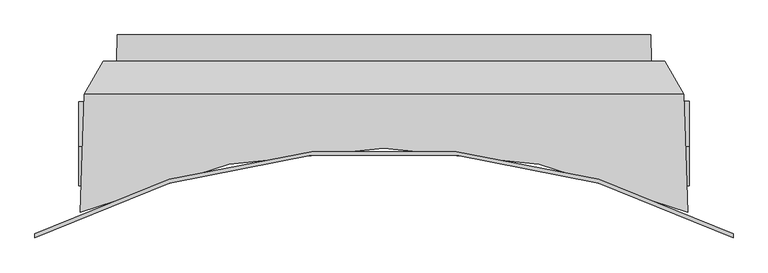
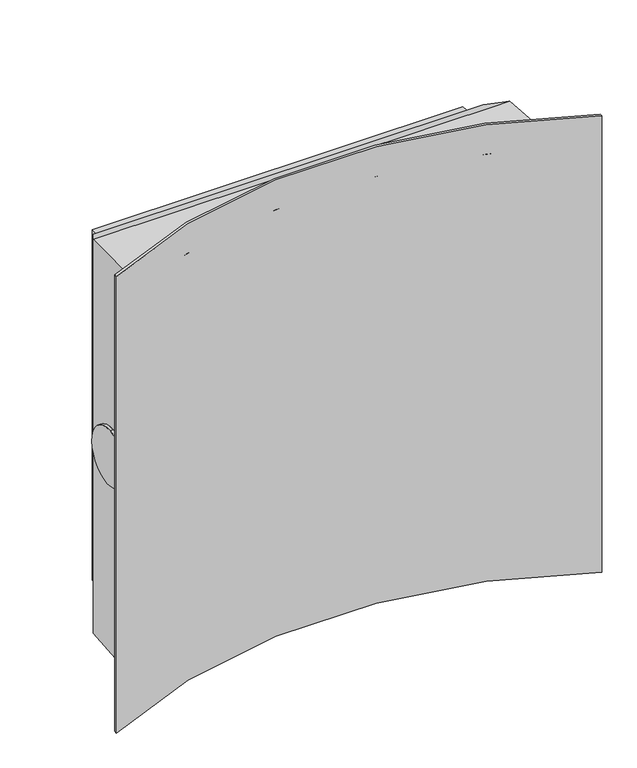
"""IFC4 building model written with IfcOpenShell, lengths in millimetres: proxy geometry, SU.900x900ManwayRiserAdapter.2500."""

from ifc_helpers import new_model, si_unit, frame, origin, place, context, project, spatial, polyline, circle_curve, ellipse_curve, source, transform, mapped, element, save
from ifc_brep_helpers import plane_surface, cylinder_surface, revolved_surface, advanced_brep


def generic_models_2cc97f2b(model_context):
    return source(origin(), model_context, "Body", "AdvancedBrep", [
        advanced_brep(
        [(498.8644366, -174.4226099, -69.7774514), (506.0, -174.4226099, -69.7774514), (506.0, -185.5773901, 69.7774514), (499.2539702, -185.5773901, 69.7774514), (-506.0, -174.4226099, -69.7774514), (-498.8644366, -174.4226099, -69.7774514), (-499.2539702, -185.5773901, 69.7774514), (-506.0, -185.5773901, 69.7774514), (-496.206021, -98.2955463, -496.206021), (-503.0171232, -293.3399951, -503.0171232), (-503.0171232, -293.3399951, 503.0171232), (-496.206021, -98.2955463, 496.206021), (-496.6147495, -110.0, 0.0), (503.0171232, -293.3399951, -503.0171232), (496.206021, -98.2955463, -496.206021), (496.206021, -98.2955463, 496.206021), (503.0171232, -293.3399951, 503.0171232), (496.6147495, -110.0, 0.0), (578.2496957, -329.4533574, -575.0), (-578.2496957, -329.4533574, -575.0), (-578.2496957, -329.4533574, 575.0), (578.2496957, -329.4533574, 575.0), (-464.8584727, -44.0, -464.8584727), (464.8584727, -44.0, -464.8584727), (464.8584727, -44.0, 464.8584727), (-464.8584727, -44.0, 464.8584727), (443.0401711, -44.0, -443.0401711), (443.0401711, -44.0, 443.0401711), (-443.0401711, -44.0, 443.0401711), (-443.0401711, -44.0, -443.0401711), (441.5036573, 0.0, 441.5036573), (441.5036573, 0.0, -441.5036573), (-441.5036573, 0.0, -441.5036573), (-441.5036573, 0.0, 441.5036573), (578.2496957, -336.2254829, -575.0), (578.2496957, -336.2254829, 575.0), (-578.2496957, -336.2254829, 575.0), (-578.2496957, -336.2254829, -575.0)],
        [
            (0, 1),
            (1, 2, circle_curve(frame((506.0, -180.0, 0.0), z_axis=(-1.0, 0.0, 0.0), x_axis=(0.0, 0.07967700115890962, -0.99682073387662)), 70.0)),
            (2, 3),
            (3, 0, ellipse_curve(frame((499.0592034, -180.0, 0.0), z_axis=(0.9993908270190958, 0.03489949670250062, 0.0), x_axis=(0.03489949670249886, -0.9993908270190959, 0.0)), 70.0426681, 70.0)),
            (4, 5),
            (5, 6, ellipse_curve(frame((-499.0592034, -180.0, 0.0), z_axis=(-0.9993908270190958, 0.03489949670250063, 0.0), x_axis=(0.034899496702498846, 0.9993908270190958, 0.0)), 70.0426681, 70.0)),
            (6, 7),
            (7, 4, circle_curve(frame((-506.0, -180.0, 0.0), z_axis=(1.0, 0.0, 0.0), x_axis=(0.0, 0.07967700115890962, -0.99682073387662)), 70.0)),
            (8, 9),
            (9, 10),
            (10, 11),
            (11, 8),
            (5, 12, ellipse_curve(frame((-499.0592034, -180.0, 0.0), z_axis=(0.9993908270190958, -0.03489949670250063, 0.0), x_axis=(0.034899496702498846, 0.9993908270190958, 0.0)), 70.0426681, 70.0)),
            (12, 6, ellipse_curve(frame((-499.0592034, -180.0, 0.0), z_axis=(0.9993908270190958, -0.03489949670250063, 0.0), x_axis=(0.034899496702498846, 0.9993908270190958, 0.0)), 70.0426681, 70.0)),
            (4, 7, circle_curve(frame((-506.0, -180.0, 0.0), z_axis=(1.0, 0.0, 0.0), x_axis=(0.0, 0.07967700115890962, -0.99682073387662)), 70.0)),
            (13, 14),
            (14, 15),
            (15, 16),
            (16, 13),
            (17, 0, ellipse_curve(frame((499.0592034, -180.0, 0.0), z_axis=(-0.9993908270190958, -0.03489949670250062, 0.0), x_axis=(0.03489949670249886, -0.9993908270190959, 0.0)), 70.0426681, 70.0)),
            (3, 17, ellipse_curve(frame((499.0592034, -180.0, 0.0), z_axis=(-0.9993908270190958, -0.03489949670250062, 0.0), x_axis=(0.03489949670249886, -0.9993908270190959, 0.0)), 70.0426681, 70.0)),
            (2, 1, circle_curve(frame((506.0, -180.0, 0.0), z_axis=(-1.0, 0.0, 0.0), x_axis=(0.0, 0.07967700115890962, -0.99682073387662)), 70.0)),
            (13, 9, ellipse_curve(frame((0.0, -1437.6624032, -542.9777423), z_axis=(0.0, -0.03489949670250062, 0.9993908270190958), x_axis=(0.0, 0.9993908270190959, 0.03489949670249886)), 1250.7619304, 1250.0)),
            (8, 14),
            (15, 11),
            (10, 16, ellipse_curve(frame((0.0, -1437.6624032, 542.9777423), z_axis=(0.0, -0.03489949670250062, -0.9993908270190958), x_axis=(0.0, -0.9993908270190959, 0.03489949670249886)), 1250.7619304, 1250.0)),
            (18, 19, circle_curve(frame((0.0, -1437.6624032, -575.0), z_axis=(0.0, 0.0, 1.0), x_axis=(0.4625997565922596, 0.886567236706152, 0.0)), 1250.0)),
            (19, 20),
            (20, 21, circle_curve(frame((0.0, -1437.6624032, 575.0), z_axis=(0.0, 0.0, -1.0), x_axis=(0.4625997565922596, 0.886567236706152, 0.0)), 1250.0)),
            (21, 18),
            (8, 22),
            (22, 23),
            (23, 14),
            (23, 24),
            (24, 15),
            (22, 25),
            (25, 24),
            (26, 27),
            (27, 28),
            (28, 29),
            (29, 26),
            (25, 11),
            (30, 31),
            (31, 32),
            (32, 33),
            (33, 30),
            (30, 27),
            (26, 31),
            (29, 32),
            (33, 28),
            (34, 35),
            (35, 36, circle_curve(frame((0.0, -1437.6624032, 575.0), z_axis=(0.0, 0.0, 1.0), x_axis=(-0.46483094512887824, -0.8853994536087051, 0.0)), 1244.0)),
            (36, 37),
            (37, 34, circle_curve(frame((0.0, -1437.6624032, -575.0), z_axis=(0.0, 0.0, -1.0), x_axis=(-0.46483094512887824, -0.8853994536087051, 0.0)), 1244.0)),
            (34, 18),
            (21, 35),
            (19, 37),
            (36, 20),
        ],
        [
            cylinder_surface(frame((0.0, -180.0, 0.0), z_axis=(1.0, 0.0, 0.0), x_axis=(0.0, 0.07967700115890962, -0.99682073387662)), 70.0),
            plane_surface(frame((-496.206021, -98.2955463, -391.5), z_axis=(-0.9993908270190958, 0.03489949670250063, 0.0), x_axis=(-0.03489949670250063, -0.9993908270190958, 0.0))),
            plane_surface(frame((496.206021, -98.2955463, 391.5), z_axis=(0.9993908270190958, 0.03489949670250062, 0.0), x_axis=(0.03489949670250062, -0.9993908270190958, 0.0))),
            plane_surface(frame((506.0, -205.0, 0.0), z_axis=(1.0, 0.0, 0.0), x_axis=(0.0, 0.0, -1.0))),
            plane_surface(frame((-506.0, -205.0, 0.0), z_axis=(-1.0, 0.0, 0.0), x_axis=(0.0, 0.0, -1.0))),
            plane_surface(frame((391.5, -98.2955463, -496.206021), z_axis=(0.0, 0.03489949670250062, -0.9993908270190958), x_axis=(0.0, -0.9993908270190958, -0.03489949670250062))),
            plane_surface(frame((-391.5, -98.2955463, 496.206021), z_axis=(0.0, 0.03489949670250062, 0.9993908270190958), x_axis=(0.0, -0.9993908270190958, 0.03489949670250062))),
            cylinder_surface(frame((0.0, -1437.6624032, 0.0), z_axis=(0.0, 0.0, 1.0), x_axis=(0.4625997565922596, 0.886567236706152, 0.0)), 1250.0),
            plane_surface(frame((391.5, -44.0, -464.8584727), z_axis=(0.0, 0.4999999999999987, -0.8660254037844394), x_axis=(0.0, -0.8660254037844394, -0.4999999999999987))),
            plane_surface(frame((464.8584727, -44.0, 391.5), z_axis=(0.8660254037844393, 0.49999999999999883, 0.0), x_axis=(0.49999999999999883, -0.8660254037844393, 0.0))),
            plane_surface(frame((391.5, -44.0, -443.0401711), z_axis=(0.0, 1.0, 0.0), x_axis=(0.0, 0.0, -1.0))),
            plane_surface(frame((-391.5, -44.0, 464.8584727), z_axis=(0.0, 0.49999999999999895, 0.8660254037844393), x_axis=(0.0, -0.8660254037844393, 0.49999999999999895))),
            plane_surface(frame((-464.8584727, -44.0, -391.5), z_axis=(-0.8660254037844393, 0.49999999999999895, 0.0), x_axis=(-0.49999999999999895, -0.8660254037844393, 0.0))),
            plane_surface(frame((391.5, 0.0, -435.5), z_axis=(0.0, 1.0, 0.0), x_axis=(0.0, 0.0, -1.0))),
            plane_surface(frame((441.5036573, 0.0, 391.5), z_axis=(0.999390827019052, 0.034899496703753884, 0.0), x_axis=(0.034899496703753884, -0.999390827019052, 0.0))),
            plane_surface(frame((391.5, 0.0, -441.5036573), z_axis=(0.0, 0.034899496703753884, -0.999390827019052), x_axis=(0.0, -0.999390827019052, -0.034899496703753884))),
            plane_surface(frame((-391.5, 0.0, 441.5036573), z_axis=(0.0, 0.034899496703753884, 0.999390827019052), x_axis=(0.0, -0.999390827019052, 0.034899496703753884))),
            plane_surface(frame((-441.5036573, 0.0, -391.5), z_axis=(-0.999390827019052, 0.03489949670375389, 0.0), x_axis=(-0.03489949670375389, -0.999390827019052, 0.0))),
            revolved_surface(polyline([(-578.2496957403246, -2539.0993234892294, 574.9999999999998), (-578.2496957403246, -2539.0993234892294, -574.9999999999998)]), (0.0, -1437.6624032, 0.0), (0.0, 0.0, 0.9999999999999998)),
            plane_surface(frame((578.2496957, -336.2254829, 0.0), z_axis=(1.0, 0.0, 0.0), x_axis=(0.0, 1.0, 0.0))),
            plane_surface(frame((-578.2496957, -329.4533574, 0.0), z_axis=(-1.0, 0.0, 0.0), x_axis=(0.0, -1.0, 0.0))),
            plane_surface(frame((0.0, -261.9439431, 575.0), z_axis=(0.0, 0.0, 1.0), x_axis=(1.0, 0.0, 0.0))),
            plane_surface(frame((0.0, -261.9439431, -575.0), z_axis=(0.0, 0.0, -1.0), x_axis=(1.0, 0.0, 0.0))),
        ],
        [
            (0, [[1, 2, 3, 4]]),
            (0, [[5, 6, 7, 8]]),
            (1, [[9, 10, 11, 12], [13, 14, -6]]),
            (0, [[-5, 15, -7, -14, -13]]),
            (2, [[16, 17, 18, 19], [20, -4, 21]]),
            (0, [[-1, -20, -21, -3, 22]]),
            (3, [[-2, -22]]),
            (4, [[-15, -8]]),
            (5, [[-16, 23, -9, 24]]),
            (6, [[-18, 25, -11, 26]]),
            (7, [[27, 28, 29, 30], [-23, -19, -26, -10]]),
            (8, [[-24, 31, 32, 33]]),
            (9, [[-17, -33, 34, 35]]),
            (10, [[-32, 36, 37, -34], [38, 39, 40, 41]]),
            (11, [[-25, -35, -37, 42]]),
            (12, [[-12, -42, -36, -31]]),
            (13, [[43, 44, 45, 46]]),
            (14, [[-43, 47, -38, 48]]),
            (15, [[-48, -41, 49, -44]]),
            (16, [[-46, 50, -39, -47]]),
            (17, [[-45, -49, -40, -50]]),
            (18, [[51, 52, 53, 54]]),
            (19, [[-51, 55, -30, 56]]),
            (20, [[-28, 57, -53, 58]]),
            (21, [[-56, -29, -58, -52]]),
            (22, [[-57, -27, -55, -54]]),
        ],
    ),
    ])


if __name__ == "__main__":
    model = new_model("IFC4")
    model_context = context("Model", 3, world=origin())
    ifc_project = project(units=[si_unit("LENGTHUNIT", "METRE", prefix="MILLI")], contexts=[model_context])
    site = spatial("IfcSite", under=ifc_project)
    building = spatial("IfcBuilding", under=site)
    placement = place(None, origin())
    generic_models_shape = generic_models_2cc97f2b(model_context)
    element("IfcBuildingElementProxy", 1, Name="SU.900x900ManwayRiserAdapter.2500", ObjectType="SU.900x900ManwayRiserAdapter.2500", at=placement, inside=building, context=model_context, shape_type="MappedRepresentation", body=[
        mapped(generic_models_shape, transform((0.0, 0.0, 0.0), x_axis=(1.0, 0.0, 0.0), y_axis=(0.0, 1.0, 0.0), z_axis=(0.0, 0.0, 1.0))),
    ])
    save(model, "model.ifc")
